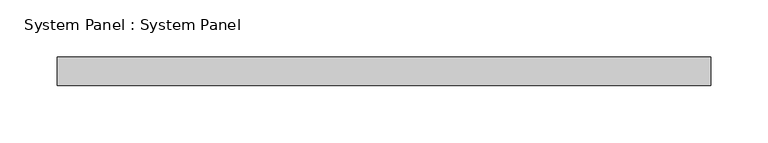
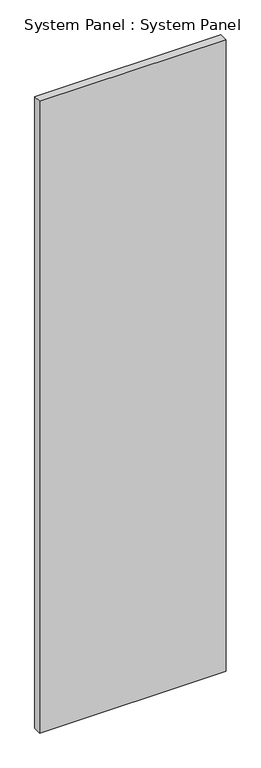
"""IFC4 building model written with IfcOpenShell, lengths in millimetres: plate geometry, System Panel : System Panel."""

from ifc_helpers import new_model, si_unit, origin, origin_with_axes, place, context, project, spatial, polyline, outline, extrude, source, transform, mapped, element, save


def system_panel_system_panel_b659144f(model_context):
    return source(origin(), model_context, "Body", "SweptSolid", [
        extrude(outline(polyline([(286.306549, 24.5), (-286.306549, 24.5), (-286.306549, 49.5), (286.306549, 49.5), (286.306549, 24.5)])), origin_with_axes(), (0.0, 0.0, 1.0), 2050.1890334),
    ])


if __name__ == "__main__":
    model = new_model("IFC4")
    model_context = context("Model", 3, world=origin())
    ifc_project = project(units=[si_unit("LENGTHUNIT", "METRE", prefix="MILLI")], contexts=[model_context])
    site = spatial("IfcSite", under=ifc_project)
    building = spatial("IfcBuilding", under=site)
    placement = place(None, origin())
    system_panel_system_panel_shape = system_panel_system_panel_b659144f(model_context)
    element("IfcPlate", 1, ObjectType="System Panel : System Panel", at=placement, inside=building, context=model_context, shape_type="MappedRepresentation", body=[
        mapped(system_panel_system_panel_shape, transform((0.0, 0.0, 0.0), x_axis=(1.0, 0.0, 0.0), y_axis=(0.0, 1.0, 0.0), z_axis=(0.0, 0.0, 1.0))),
    ])
    save(model, "model.ifc")
